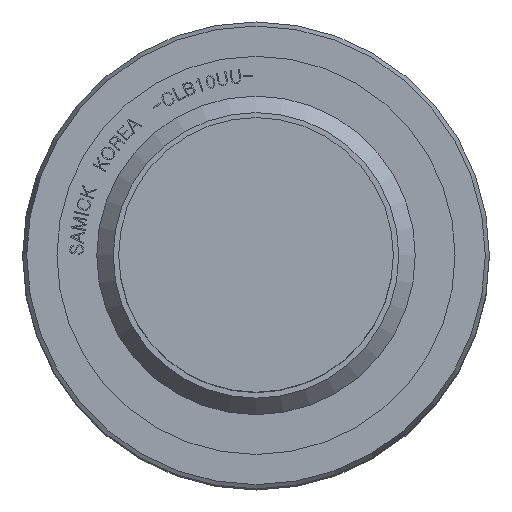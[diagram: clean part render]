
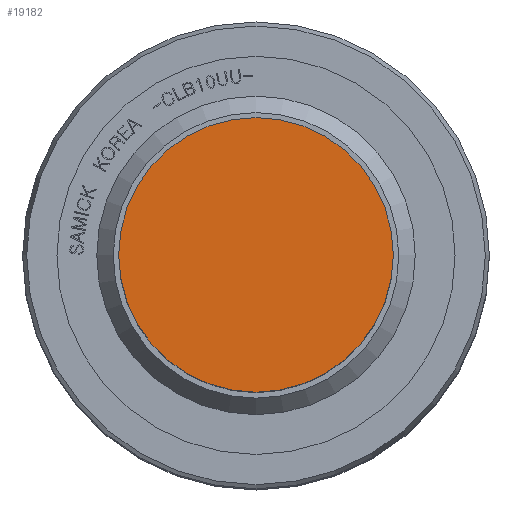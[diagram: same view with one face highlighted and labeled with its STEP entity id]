
A CAD part, top view. The second image highlights one B-rep face of the part: STEP entity #19182.
In plain terms, the highlighted planar face has unit normal (0, 0, 1).
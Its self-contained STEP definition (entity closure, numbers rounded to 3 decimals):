
#737=PLANE('',#20315);
#2465=FACE_OUTER_BOUND('',#3525,.T.);
#3525=EDGE_LOOP('',(#12526));
#4649=CIRCLE('',#20309,5.);
#7641=VERTEX_POINT('',#23807);
#9579=EDGE_CURVE('',#7641,#7641,#4649,.T.);
#12526=ORIENTED_EDGE('',*,*,#9579,.T.);
#19182=ADVANCED_FACE('',(#2465),#737,.T.);
#20309=AXIS2_PLACEMENT_3D('',#23808,#21097,#21098);
#20315=AXIS2_PLACEMENT_3D('',#23819,#21111,#21112);
#21097=DIRECTION('center_axis',(0.,0.,1.));
#21098=DIRECTION('ref_axis',(-1.,0.,0.));
#21111=DIRECTION('center_axis',(0.,0.,1.));
#21112=DIRECTION('ref_axis',(1.,0.,0.));
#23807=CARTESIAN_POINT('',(5.,0.,23.));
#23808=CARTESIAN_POINT('Origin',(0.,0.,
23.));
#23819=CARTESIAN_POINT('Origin',(0.,0.,
23.));
